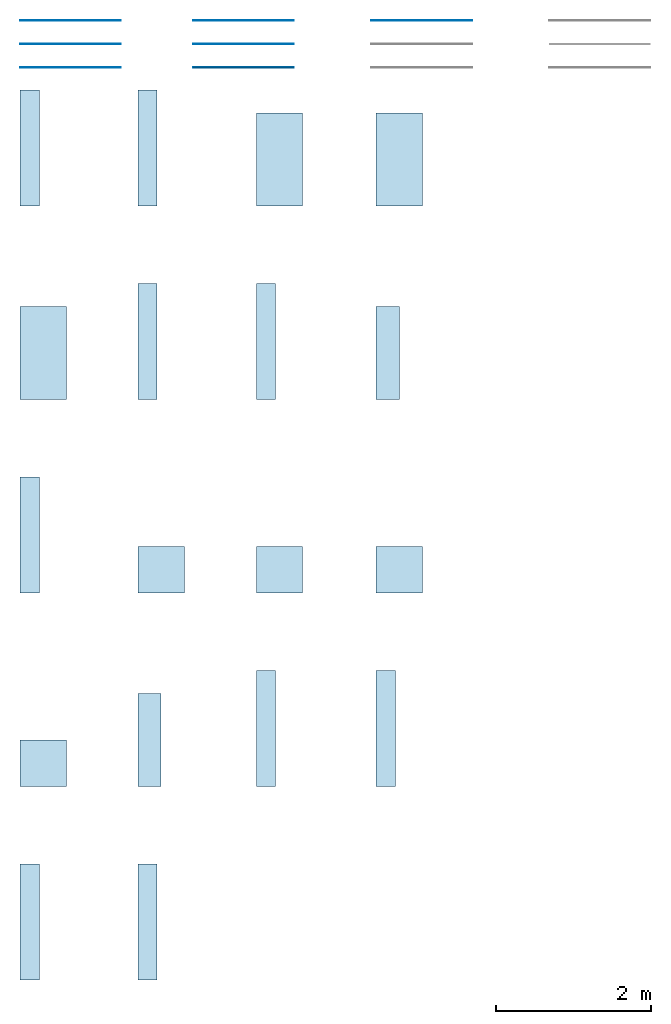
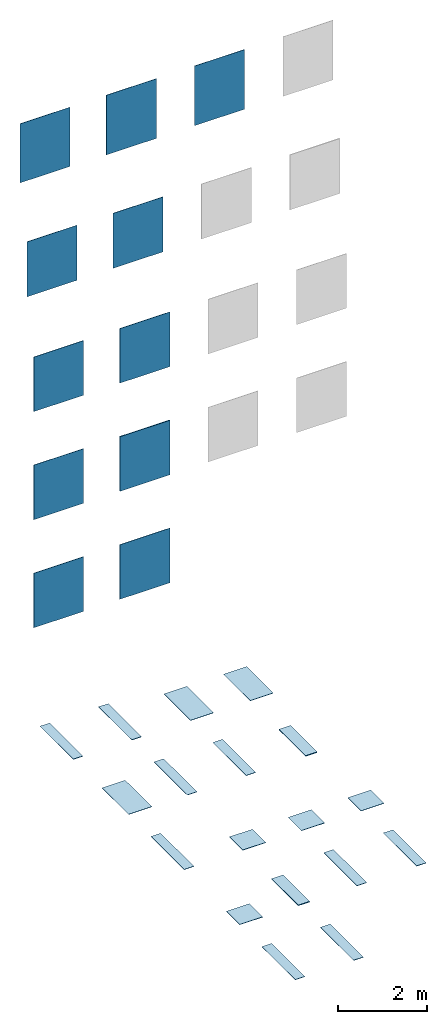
# One storey, part 1 of 2: 18 slabs, 11 walls.
"""IFC2X3 building model written with IfcOpenShell, lengths in millimetres."""

from ifc_helpers import new_model, entity, si_unit, converted_unit, derived_unit, direction, frame, frame_2d, origin, origin_2d_with_axis, place, context, subcontext, project, spatial, rectangle, extrude, material, layer, layer_set, layer_usage, type_object, element, save


model = new_model("IFC2X3")

# Units and contexts
model_context = context("Model", 3, precision=0.01, world=origin(), true_north=direction((6.123031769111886e-17, 1.0)))
body_context = subcontext(model_context, "Body", "Model", "MODEL_VIEW")
ifc_project = project(units=[si_unit("LENGTHUNIT", "METRE", prefix="MILLI"), si_unit("AREAUNIT", "SQUARE_METRE"), si_unit("VOLUMEUNIT", "CUBIC_METRE"), converted_unit("PLANEANGLEUNIT", "DEGREE", entity("IfcPlaneAngleMeasure", 0.017453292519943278), si_unit("PLANEANGLEUNIT", "RADIAN"), dimensions=[0, 0, 0, 0, 0, 0, 0]), si_unit("MASSUNIT", "GRAM", prefix="KILO"), derived_unit("MASSDENSITYUNIT", [(si_unit("MASSUNIT", "GRAM", prefix="KILO"), 1), (si_unit("LENGTHUNIT", "METRE"), -3)]), derived_unit("IONCONCENTRATIONUNIT", [(si_unit("MASSUNIT", "GRAM", prefix="KILO"), 1), (si_unit("LENGTHUNIT", "METRE"), -3)]), derived_unit("MOMENTOFINERTIAUNIT", [(si_unit("LENGTHUNIT", "METRE"), 4)]), si_unit("TIMEUNIT", "SECOND"), si_unit("FREQUENCYUNIT", "HERTZ"), si_unit("THERMODYNAMICTEMPERATUREUNIT", "DEGREE_CELSIUS"), derived_unit("THERMALTRANSMITTANCEUNIT", [(si_unit("MASSUNIT", "GRAM", prefix="KILO"), 1), (si_unit("THERMODYNAMICTEMPERATUREUNIT", "KELVIN"), -1), (si_unit("TIMEUNIT", "SECOND"), -3)]), derived_unit("THERMALCONDUCTANCEUNIT", [(si_unit("MASSUNIT", "GRAM", prefix="KILO"), 1), (si_unit("THERMODYNAMICTEMPERATUREUNIT", "KELVIN"), -1), (si_unit("TIMEUNIT", "SECOND"), -3), (si_unit("LENGTHUNIT", "METRE"), 1)]), derived_unit("VOLUMETRICFLOWRATEUNIT", [(si_unit("LENGTHUNIT", "METRE", prefix="DECI"), 3), (si_unit("TIMEUNIT", "SECOND"), -1)]), derived_unit("MASSFLOWRATEUNIT", [(si_unit("MASSUNIT", "GRAM", prefix="KILO"), 1), (si_unit("TIMEUNIT", "SECOND"), -1)]), derived_unit("ROTATIONALFREQUENCYUNIT", [(si_unit("TIMEUNIT", "SECOND"), -1)]), si_unit("ELECTRICCURRENTUNIT", "AMPERE"), si_unit("ELECTRICVOLTAGEUNIT", "VOLT"), si_unit("POWERUNIT", "WATT"), si_unit("FORCEUNIT", "NEWTON", prefix="KILO"), si_unit("ILLUMINANCEUNIT", "LUX"), si_unit("LUMINOUSFLUXUNIT", "LUMEN"), si_unit("LUMINOUSINTENSITYUNIT", "CANDELA"), si_unit("ENERGYUNIT", "JOULE"), derived_unit("USERDEFINED", [(si_unit("MASSUNIT", "GRAM", prefix="KILO"), -1), (si_unit("LENGTHUNIT", "METRE"), -2), (si_unit("TIMEUNIT", "SECOND"), 3), (si_unit("LUMINOUSFLUXUNIT", "LUMEN"), 1)]), derived_unit("USERDEFINED", [(si_unit("MASSUNIT", "GRAM", prefix="KILO"), 1), (si_unit("TIMEUNIT", "SECOND"), -3), (si_unit("LENGTHUNIT", "METRE"), 3), (si_unit("ELECTRICCURRENTUNIT", "AMPERE"), -2)]), derived_unit("SOUNDPOWERUNIT", [(si_unit("MASSUNIT", "GRAM", prefix="KILO"), 1), (si_unit("TIMEUNIT", "SECOND"), -3), (si_unit("LENGTHUNIT", "METRE"), 2)]), derived_unit("SOUNDPRESSUREUNIT", [(si_unit("MASSUNIT", "GRAM", prefix="KILO"), 1), (si_unit("LENGTHUNIT", "METRE"), -1), (si_unit("TIMEUNIT", "SECOND"), -2)]), derived_unit("LINEARVELOCITYUNIT", [(si_unit("LENGTHUNIT", "METRE"), 1), (si_unit("TIMEUNIT", "SECOND"), -1)]), si_unit("PRESSUREUNIT", "PASCAL"), derived_unit("USERDEFINED", [(si_unit("MASSUNIT", "GRAM", prefix="KILO"), 1), (si_unit("LENGTHUNIT", "METRE"), -2), (si_unit("TIMEUNIT", "SECOND"), -2)]), derived_unit("LINEARFORCEUNIT", [(si_unit("MASSUNIT", "GRAM", prefix="KILO"), 1), (si_unit("TIMEUNIT", "SECOND"), -2)]), derived_unit("PLANARFORCEUNIT", [(si_unit("MASSUNIT", "GRAM", prefix="KILO"), 1), (si_unit("LENGTHUNIT", "METRE"), -1), (si_unit("TIMEUNIT", "SECOND"), -2)]), derived_unit("SPECIFICHEATCAPACITYUNIT", [(si_unit("THERMODYNAMICTEMPERATUREUNIT", "KELVIN"), -1), (si_unit("LENGTHUNIT", "METRE"), 2), (si_unit("TIMEUNIT", "SECOND"), -2)]), derived_unit("HEATFLUXDENSITYUNIT", [(si_unit("MASSUNIT", "GRAM", prefix="KILO"), 1), (si_unit("TIMEUNIT", "SECOND"), -3)]), derived_unit("HEATINGVALUEUNIT", [(si_unit("LENGTHUNIT", "METRE"), 2), (si_unit("TIMEUNIT", "SECOND"), -2)]), derived_unit("VAPORPERMEABILITYUNIT", [(si_unit("LENGTHUNIT", "METRE"), -1), (si_unit("TIMEUNIT", "SECOND"), 1)]), derived_unit("DYNAMICVISCOSITYUNIT", [(si_unit("MASSUNIT", "GRAM", prefix="KILO"), 1), (si_unit("TIMEUNIT", "SECOND"), -1), (si_unit("LENGTHUNIT", "METRE"), -1)]), derived_unit("THERMALEXPANSIONCOEFFICIENTUNIT", [(si_unit("THERMODYNAMICTEMPERATUREUNIT", "KELVIN"), -1)]), derived_unit("MODULUSOFELASTICITYUNIT", [(si_unit("MASSUNIT", "GRAM", prefix="KILO"), 1), (si_unit("LENGTHUNIT", "METRE"), -1), (si_unit("TIMEUNIT", "SECOND"), -2)]), derived_unit("ISOTHERMALMOISTURECAPACITYUNIT", [(si_unit("MASSUNIT", "GRAM", prefix="KILO"), -1), (si_unit("LENGTHUNIT", "METRE"), 3)]), derived_unit("MOISTUREDIFFUSIVITYUNIT", [(si_unit("TIMEUNIT", "SECOND"), -1), (si_unit("LENGTHUNIT", "METRE"), 2)]), derived_unit("MASSPERLENGTHUNIT", [(si_unit("MASSUNIT", "GRAM", prefix="KILO"), 1), (si_unit("LENGTHUNIT", "METRE"), -1)]), derived_unit("THERMALRESISTANCEUNIT", [(si_unit("MASSUNIT", "GRAM", prefix="KILO"), -1), (si_unit("TIMEUNIT", "SECOND"), 3), (si_unit("THERMODYNAMICTEMPERATUREUNIT", "KELVIN"), 1)]), derived_unit("ACCELERATIONUNIT", [(si_unit("LENGTHUNIT", "METRE"), 1), (si_unit("TIMEUNIT", "SECOND"), -2)]), derived_unit("ANGULARVELOCITYUNIT", [(si_unit("TIMEUNIT", "SECOND"), -1), (si_unit("PLANEANGLEUNIT", "RADIAN"), 1)]), derived_unit("LINEARSTIFFNESSUNIT", [(si_unit("MASSUNIT", "GRAM", prefix="KILO"), 1), (si_unit("TIMEUNIT", "SECOND"), -2)]), derived_unit("WARPINGCONSTANTUNIT", [(si_unit("LENGTHUNIT", "METRE"), 6)]), derived_unit("LINEARMOMENTUNIT", [(si_unit("MASSUNIT", "GRAM", prefix="KILO"), 1), (si_unit("LENGTHUNIT", "METRE"), 1), (si_unit("TIMEUNIT", "SECOND"), -2)]), derived_unit("TORQUEUNIT", [(si_unit("MASSUNIT", "GRAM", prefix="KILO"), 1), (si_unit("LENGTHUNIT", "METRE"), 2), (si_unit("TIMEUNIT", "SECOND"), -2)])], contexts=[model_context])

# Site, building, storey
site_placement = place(None, origin())
site = spatial("IfcSite", under=ifc_project, at=site_placement, Name="Default", CompositionType="ELEMENT")
building_placement = place(site_placement, origin())
building = spatial("IfcBuilding", under=site, at=building_placement, CompositionType="ELEMENT")
storey_placement = place(building_placement, origin())
storey = spatial("IfcBuildingStorey", under=building, at=storey_placement, Name="Level 0", CompositionType="ELEMENT", Elevation=0.0)

# Slabs
ifc_material_1 = material(Name="Eik-Almond-25x150 RJ96")
ifc_layer_1 = layer(ifc_material_1, 9.0)
ifc_material_2 = material(Name="<Unnamed>")
ifc_layer_2 = layer(ifc_material_2, 1.0)
ifc_layer_set_1 = layer_set([ifc_layer_1, ifc_layer_2], Name="Floor:Floor_Tiles_Refin-Eik-Almond-25x150 RJ96")
ifc_layer_usage_1 = layer_usage(ifc_layer_set_1, "AXIS3", "POSITIVE", 0.0)
slab_type_1 = type_object("IfcSlabType", Name="Floor:Floor_Tiles_Refin-Eik-Almond-25x150 RJ96", PredefinedType="FLOOR", material=ifc_layer_set_1)
slab_1_placement = place(storey_placement, origin())
element("IfcSlab", 1, at=slab_1_placement, inside=storey, type_object=slab_type_1, material=ifc_layer_usage_1, Name="Floor:Floor_Tiles_Refin-Eik-Almond-25x150 RJ96", ObjectType="Floor:Floor_Tiles_Refin-Eik-Almond-25x150 RJ96", PredefinedType="FLOOR", context=body_context, shape_type="SweptSolid", body=[
    extrude(rectangle(XDim=1500.0, YDim=249.9999999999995, at=frame_2d((-5.115907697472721e-13, 0.0), x_axis=(1.0, 0.0))), frame((6499.375206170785, 6489.462374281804, 0.0), z_axis=(0.0, 0.0, -1.0), x_axis=(0.0, 1.0, 0.0)), (0.0, 0.0, 1.0), 10.0),
])
ifc_material_3 = material(Name="Eik-Ash-25x150 RJ97")
ifc_layer_3 = layer(ifc_material_3, 9.0)
ifc_layer_4 = layer(ifc_material_2, 1.0)
ifc_layer_set_2 = layer_set([ifc_layer_3, ifc_layer_4], Name="Floor:Floor_Tiles_Refin-Eik-Ash-25x150 RJ97")
ifc_layer_usage_2 = layer_usage(ifc_layer_set_2, "AXIS3", "POSITIVE", 0.0)
slab_type_2 = type_object("IfcSlabType", Name="Floor:Floor_Tiles_Refin-Eik-Ash-25x150 RJ97", PredefinedType="FLOOR", material=ifc_layer_set_2)
slab_2_placement = place(storey_placement, origin())
element("IfcSlab", 2, at=slab_2_placement, inside=storey, type_object=slab_type_2, material=ifc_layer_usage_2, Name="Floor:Floor_Tiles_Refin-Eik-Ash-25x150 RJ97", ObjectType="Floor:Floor_Tiles_Refin-Eik-Ash-25x150 RJ97", PredefinedType="FLOOR", context=body_context, shape_type="SweptSolid", body=[
    extrude(rectangle(XDim=1500.0, YDim=249.9999999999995, at=frame_2d((5.115907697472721e-13, 0.0), x_axis=(1.0, 0.0))), frame((8022.392405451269, 6488.4192063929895, 0.0), z_axis=(0.0, 0.0, -1.0), x_axis=(0.0, 1.0, 0.0)), (0.0, 0.0, 1.0), 10.0),
])
ifc_material_4 = material(Name="Eik-Canné-Almond-60x120 RK81")
ifc_layer_5 = layer(ifc_material_4, 9.0)
ifc_layer_6 = layer(ifc_material_2, 1.0)
ifc_layer_set_3 = layer_set([ifc_layer_5, ifc_layer_6], Name="Floor:Floor_Tiles_Refin-Eik-Cannè-Almond-60x120 RK81")
ifc_layer_usage_3 = layer_usage(ifc_layer_set_3, "AXIS3", "POSITIVE", 0.0)
slab_type_3 = type_object("IfcSlabType", Name="Floor:Floor_Tiles_Refin-Eik-Cannè-Almond-60x120 RK81", PredefinedType="FLOOR", material=ifc_layer_set_3)
slab_3_placement = place(storey_placement, origin())
element("IfcSlab", 3, at=slab_3_placement, inside=storey, type_object=slab_type_3, material=ifc_layer_usage_3, Name="Floor:Floor_Tiles_Refin-Eik-Cannè-Almond-60x120 RK81", ObjectType="Floor:Floor_Tiles_Refin-Eik-Cannè-Almond-60x120 RK81", PredefinedType="FLOOR", context=body_context, shape_type="SweptSolid", body=[
    extrude(rectangle(XDim=1200.0, YDim=600.0, at=frame_2d((0.0, -1.0800249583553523e-12), x_axis=(1.0, 0.0))), frame((9727.186141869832, 6339.462374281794, 0.0), z_axis=(0.0, 0.0, -1.0), x_axis=(0.0, 1.0, 0.0)), (0.0, 0.0, 1.0), 10.0),
])
ifc_material_5 = material(Name="Eik-Canné-Honey-60x120 RK82")
ifc_layer_7 = layer(ifc_material_5, 9.0)
ifc_layer_8 = layer(ifc_material_2, 1.0)
ifc_layer_set_4 = layer_set([ifc_layer_7, ifc_layer_8], Name="Floor:Floor_Tiles_Refin-Eik-Cannè-Honey-60x120 RK82")
ifc_layer_usage_4 = layer_usage(ifc_layer_set_4, "AXIS3", "POSITIVE", 0.0)
slab_type_4 = type_object("IfcSlabType", Name="Floor:Floor_Tiles_Refin-Eik-Cannè-Honey-60x120 RK82", PredefinedType="FLOOR", material=ifc_layer_set_4)
slab_4_placement = place(storey_placement, origin())
element("IfcSlab", 4, at=slab_4_placement, inside=storey, type_object=slab_type_4, material=ifc_layer_usage_4, Name="Floor:Floor_Tiles_Refin-Eik-Cannè-Honey-60x120 RK82", ObjectType="Floor:Floor_Tiles_Refin-Eik-Cannè-Honey-60x120 RK82", PredefinedType="FLOOR", context=body_context, shape_type="SweptSolid", body=[
    extrude(rectangle(XDim=1200.0, YDim=600.0, at=frame_2d((0.0, -1.0800249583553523e-12), x_axis=(1.0, 0.0))), frame((11276.979878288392, 6339.4623742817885, 0.0), z_axis=(0.0, 0.0, -1.0), x_axis=(0.0, 1.0, 0.0)), (0.0, 0.0, 1.0), 10.0),
])
ifc_material_6 = material(Name="Eik-Canné-Natural-60x120 RK83")
ifc_layer_9 = layer(ifc_material_6, 9.0)
ifc_layer_10 = layer(ifc_material_2, 1.0)
ifc_layer_set_5 = layer_set([ifc_layer_9, ifc_layer_10], Name="Floor:Floor_Tiles_Refin-Eik-Cannè-Natural-60x120 RK83")
ifc_layer_usage_5 = layer_usage(ifc_layer_set_5, "AXIS3", "POSITIVE", 0.0)
slab_type_5 = type_object("IfcSlabType", Name="Floor:Floor_Tiles_Refin-Eik-Cannè-Natural-60x120 RK83", PredefinedType="FLOOR", material=ifc_layer_set_5)
slab_5_placement = place(storey_placement, origin())
element("IfcSlab", 5, at=slab_5_placement, inside=storey, type_object=slab_type_5, material=ifc_layer_usage_5, Name="Floor:Floor_Tiles_Refin-Eik-Cannè-Natural-60x120 RK83", ObjectType="Floor:Floor_Tiles_Refin-Eik-Cannè-Natural-60x120 RK83", PredefinedType="FLOOR", context=body_context, shape_type="SweptSolid", body=[
    extrude(rectangle(XDim=1199.9999999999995, YDim=600.0, at=frame_2d((-2.2737367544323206e-13, 1.0800249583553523e-12), x_axis=(1.0, 0.0))), frame((6674.375206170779, 3839.4623742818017, 0.0), z_axis=(0.0, 0.0, -1.0), x_axis=(0.0, 1.0, 0.0)), (0.0, 0.0, 1.0), 10.0),
])
ifc_material_7 = material(Name="Eik-Choco-25x150 RJ98")
ifc_layer_11 = layer(ifc_material_7, 9.0)
ifc_layer_12 = layer(ifc_material_2, 1.0)
ifc_layer_set_6 = layer_set([ifc_layer_11, ifc_layer_12], Name="Floor:Floor_Tiles_Refin-Eik-Choco-25x150 RJ98")
ifc_layer_usage_6 = layer_usage(ifc_layer_set_6, "AXIS3", "POSITIVE", 0.0)
slab_type_6 = type_object("IfcSlabType", Name="Floor:Floor_Tiles_Refin-Eik-Choco-25x150 RJ98", PredefinedType="FLOOR", material=ifc_layer_set_6)
slab_6_placement = place(storey_placement, origin())
element("IfcSlab", 6, at=slab_6_placement, inside=storey, type_object=slab_type_6, material=ifc_layer_usage_6, Name="Floor:Floor_Tiles_Refin-Eik-Choco-25x150 RJ98", ObjectType="Floor:Floor_Tiles_Refin-Eik-Choco-25x150 RJ98", PredefinedType="FLOOR", context=body_context, shape_type="SweptSolid", body=[
    extrude(rectangle(XDim=1500.0, YDim=249.9999999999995, at=origin_2d_with_axis()), frame((8022.392405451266, 3989.4623742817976, 0.0), z_axis=(0.0, 0.0, -1.0), x_axis=(0.0, 1.0, 0.0)), (0.0, 0.0, 1.0), 10.0),
])
ifc_material_8 = material(Name="Eik-Coffee-25x150 RJ99")
ifc_layer_13 = layer(ifc_material_8, 9.0)
ifc_layer_14 = layer(ifc_material_2, 1.0)
ifc_layer_set_7 = layer_set([ifc_layer_13, ifc_layer_14], Name="Floor:Floor_Tiles_Refin-Eik-Coffee-25x150 RJ99")
ifc_layer_usage_7 = layer_usage(ifc_layer_set_7, "AXIS3", "POSITIVE", 0.0)
slab_type_7 = type_object("IfcSlabType", Name="Floor:Floor_Tiles_Refin-Eik-Coffee-25x150 RJ99", PredefinedType="FLOOR", material=ifc_layer_set_7)
slab_7_placement = place(storey_placement, origin())
element("IfcSlab", 7, at=slab_7_placement, inside=storey, type_object=slab_type_7, material=ifc_layer_usage_7, Name="Floor:Floor_Tiles_Refin-Eik-Coffee-25x150 RJ99", ObjectType="Floor:Floor_Tiles_Refin-Eik-Coffee-25x150 RJ99", PredefinedType="FLOOR", context=body_context, shape_type="SweptSolid", body=[
    extrude(rectangle(XDim=1500.0000000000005, YDim=249.9999999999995, at=frame_2d((-2.8421709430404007e-13, 0.0), x_axis=(1.0, 0.0))), frame((9552.186141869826, 3989.4623742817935, 0.0), z_axis=(0.0, 0.0, -1.0), x_axis=(0.0, 1.0, 0.0)), (0.0, 0.0, 1.0), 10.0),
])
ifc_material_9 = material(Name="Eik-Honey-OUT2.0-30x120 RN20")
ifc_layer_15 = layer(ifc_material_9, 20.0)
ifc_layer_16 = layer(ifc_material_2, 1.0)
ifc_layer_set_8 = layer_set([ifc_layer_15, ifc_layer_16], Name="Floor:Floor_Tiles_Refin-Eik-Honey-OUT2.0-30x120 RN20")
ifc_layer_usage_8 = layer_usage(ifc_layer_set_8, "AXIS3", "POSITIVE", 0.0)
slab_type_8 = type_object("IfcSlabType", Name="Floor:Floor_Tiles_Refin-Eik-Honey-OUT2.0-30x120 RN20", PredefinedType="FLOOR", material=ifc_layer_set_8)
slab_8_placement = place(storey_placement, origin())
element("IfcSlab", 8, at=slab_8_placement, inside=storey, type_object=slab_type_8, material=ifc_layer_usage_8, Name="Floor:Floor_Tiles_Refin-Eik-Honey-OUT2.0-30x120 RN20", ObjectType="Floor:Floor_Tiles_Refin-Eik-Honey-OUT2.0-30x120 RN20", PredefinedType="FLOOR", context=body_context, shape_type="SweptSolid", body=[
    extrude(rectangle(XDim=1200.0, YDim=300.0000000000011, at=origin_2d_with_axis()), frame((11126.97987828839, 3839.462374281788, 0.0), z_axis=(0.0, 0.0, -1.0), x_axis=(0.0, 1.0, 0.0)), (0.0, 0.0, 1.0), 21.0),
])
ifc_material_10 = material(Name="Eik-Honey-25x150 RK00")
ifc_layer_17 = layer(ifc_material_10, 9.0)
ifc_layer_18 = layer(ifc_material_2, 1.0)
ifc_layer_set_9 = layer_set([ifc_layer_17, ifc_layer_18], Name="Floor:Floor_Tiles_Refin-Eik-Honey-25x150 RK00")
ifc_layer_usage_9 = layer_usage(ifc_layer_set_9, "AXIS3", "POSITIVE", 0.0)
slab_type_9 = type_object("IfcSlabType", Name="Floor:Floor_Tiles_Refin-Eik-Honey-25x150 RK00", PredefinedType="FLOOR", material=ifc_layer_set_9)
slab_9_placement = place(storey_placement, origin())
element("IfcSlab", 9, at=slab_9_placement, inside=storey, type_object=slab_type_9, material=ifc_layer_usage_9, Name="Floor:Floor_Tiles_Refin-Eik-Honey-25x150 RK00", ObjectType="Floor:Floor_Tiles_Refin-Eik-Honey-25x150 RK00", PredefinedType="FLOOR", context=body_context, shape_type="SweptSolid", body=[
    extrude(rectangle(XDim=1500.0, YDim=249.9999999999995, at=origin_2d_with_axis()), frame((6499.375206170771, 1489.4623742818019, 0.0), z_axis=(0.0, 0.0, -1.0), x_axis=(0.0, 1.0, 0.0)), (0.0, 0.0, 1.0), 10.0),
])
ifc_material_11 = material(Name="Eik-Leaf-Almond-60x60 RL61")
ifc_layer_19 = layer(ifc_material_11, 9.0)
ifc_layer_20 = layer(ifc_material_2, 1.0)
ifc_layer_set_10 = layer_set([ifc_layer_19, ifc_layer_20], Name="Floor:Floor_Tiles_Refin-Eik-Leaf-Almond-60x60 RL61")
ifc_layer_usage_10 = layer_usage(ifc_layer_set_10, "AXIS3", "POSITIVE", 0.0)
slab_type_10 = type_object("IfcSlabType", Name="Floor:Floor_Tiles_Refin-Eik-Leaf-Almond-60x60 RL61", PredefinedType="FLOOR", material=ifc_layer_set_10)
slab_10_placement = place(storey_placement, origin())
element("IfcSlab", 10, at=slab_10_placement, inside=storey, type_object=slab_type_10, material=ifc_layer_usage_10, Name="Floor:Floor_Tiles_Refin-Eik-Leaf-Almond-60x60 RL61", ObjectType="Floor:Floor_Tiles_Refin-Eik-Leaf-Almond-60x60 RL61", PredefinedType="FLOOR", context=body_context, shape_type="SweptSolid", body=[
    extrude(rectangle(XDim=600.0, YDim=600.0, at=frame_2d((0.0, 1.0800249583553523e-12), x_axis=(1.0, 0.0))), frame((8197.39240545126, 1039.4623742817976, 0.0), z_axis=(0.0, 0.0, -1.0), x_axis=(0.0, 1.0, 0.0)), (0.0, 0.0, 1.0), 10.0),
])
ifc_material_12 = material(Name="Eik-Leaf-Honey-60x60 RL62")
ifc_layer_21 = layer(ifc_material_12, 9.0)
ifc_layer_22 = layer(ifc_material_2, 1.0)
ifc_layer_set_11 = layer_set([ifc_layer_21, ifc_layer_22], Name="Floor:Floor_Tiles_Refin-Eik-Leaf-Honey-60x60 RL62")
ifc_layer_usage_11 = layer_usage(ifc_layer_set_11, "AXIS3", "POSITIVE", 0.0)
slab_type_11 = type_object("IfcSlabType", Name="Floor:Floor_Tiles_Refin-Eik-Leaf-Honey-60x60 RL62", PredefinedType="FLOOR", material=ifc_layer_set_11)
slab_11_placement = place(storey_placement, origin())
element("IfcSlab", 11, at=slab_11_placement, inside=storey, type_object=slab_type_11, material=ifc_layer_usage_11, Name="Floor:Floor_Tiles_Refin-Eik-Leaf-Honey-60x60 RL62", ObjectType="Floor:Floor_Tiles_Refin-Eik-Leaf-Honey-60x60 RL62", PredefinedType="FLOOR", context=body_context, shape_type="SweptSolid", body=[
    extrude(rectangle(XDim=600.0, YDim=600.0, at=frame_2d((0.0, -1.0800249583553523e-12), x_axis=(1.0, 0.0))), frame((9727.186141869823, 1039.4623742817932, 0.0), z_axis=(0.0, 0.0, -1.0), x_axis=(0.0, 1.0, 0.0)), (0.0, 0.0, 1.0), 10.0),
])
ifc_material_13 = material(Name="Eik-Leaf-Natural-60x60 RL63")
ifc_layer_23 = layer(ifc_material_13, 9.0)
ifc_layer_24 = layer(ifc_material_2, 1.0)
ifc_layer_set_12 = layer_set([ifc_layer_23, ifc_layer_24], Name="Floor:Floor_Tiles_Refin-Eik-Leaf-Natural-60x60 RL63")
ifc_layer_usage_12 = layer_usage(ifc_layer_set_12, "AXIS3", "POSITIVE", 0.0)
slab_type_12 = type_object("IfcSlabType", Name="Floor:Floor_Tiles_Refin-Eik-Leaf-Natural-60x60 RL63", PredefinedType="FLOOR", material=ifc_layer_set_12)
slab_12_placement = place(storey_placement, origin())
element("IfcSlab", 12, at=slab_12_placement, inside=storey, type_object=slab_type_12, material=ifc_layer_usage_12, Name="Floor:Floor_Tiles_Refin-Eik-Leaf-Natural-60x60 RL63", ObjectType="Floor:Floor_Tiles_Refin-Eik-Leaf-Natural-60x60 RL63", PredefinedType="FLOOR", context=body_context, shape_type="SweptSolid", body=[
    extrude(rectangle(XDim=600.0, YDim=600.0, at=frame_2d((0.0, 1.0800249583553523e-12), x_axis=(1.0, 0.0))), frame((11276.979878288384, 1039.462374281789, 0.0), z_axis=(0.0, 0.0, -1.0), x_axis=(0.0, 1.0, 0.0)), (0.0, 0.0, 1.0), 10.0),
])
ifc_material_14 = material(Name="Eik-Leaf-Nut-60x60 RL64")
ifc_layer_25 = layer(ifc_material_14, 9.0)
ifc_layer_26 = layer(ifc_material_2, 1.0)
ifc_layer_set_13 = layer_set([ifc_layer_25, ifc_layer_26], Name="Floor:Floor_Tiles_Refin-Eik-Leaf-Nut-60x60 RL64")
ifc_layer_usage_13 = layer_usage(ifc_layer_set_13, "AXIS3", "POSITIVE", 0.0)
slab_type_13 = type_object("IfcSlabType", Name="Floor:Floor_Tiles_Refin-Eik-Leaf-Nut-60x60 RL64", PredefinedType="FLOOR", material=ifc_layer_set_13)
slab_13_placement = place(storey_placement, origin())
element("IfcSlab", 13, at=slab_13_placement, inside=storey, type_object=slab_type_13, material=ifc_layer_usage_13, Name="Floor:Floor_Tiles_Refin-Eik-Leaf-Nut-60x60 RL64", ObjectType="Floor:Floor_Tiles_Refin-Eik-Leaf-Nut-60x60 RL64", PredefinedType="FLOOR", context=body_context, shape_type="SweptSolid", body=[
    extrude(rectangle(XDim=600.0, YDim=600.0, at=frame_2d((0.0, 1.0800249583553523e-12), x_axis=(1.0, 0.0))), frame((6674.375206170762, -1460.5376257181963, 0.0), z_axis=(0.0, 0.0, -1.0), x_axis=(0.0, 1.0, 0.0)), (0.0, 0.0, 1.0), 10.0),
])
ifc_material_15 = material(Name="Eik-Natural-OUT2.0-30x120 RN21")
ifc_layer_27 = layer(ifc_material_15, 20.0)
ifc_layer_28 = layer(ifc_material_2, 1.0)
ifc_layer_set_14 = layer_set([ifc_layer_27, ifc_layer_28], Name="Floor:Floor_Tiles_Refin-Eik-Natural-OUT2.0-30x120 RN21")
ifc_layer_usage_14 = layer_usage(ifc_layer_set_14, "AXIS3", "POSITIVE", 0.0)
slab_type_14 = type_object("IfcSlabType", Name="Floor:Floor_Tiles_Refin-Eik-Natural-OUT2.0-30x120 RN21", PredefinedType="FLOOR", material=ifc_layer_set_14)
slab_14_placement = place(storey_placement, origin())
element("IfcSlab", 14, at=slab_14_placement, inside=storey, type_object=slab_type_14, material=ifc_layer_usage_14, Name="Floor:Floor_Tiles_Refin-Eik-Natural-OUT2.0-30x120 RN21", ObjectType="Floor:Floor_Tiles_Refin-Eik-Natural-OUT2.0-30x120 RN21", PredefinedType="FLOOR", context=body_context, shape_type="SweptSolid", body=[
    extrude(rectangle(XDim=1200.0, YDim=300.0000000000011, at=origin_2d_with_axis()), frame((8047.392405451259, -1160.5376257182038, 0.0), z_axis=(0.0, 0.0, -1.0), x_axis=(0.0, 1.0, 0.0)), (0.0, 0.0, 1.0), 21.0),
])
ifc_material_16 = material(Name="Eik-Natural-25x150 RK01")
ifc_layer_29 = layer(ifc_material_16, 9.0)
ifc_layer_30 = layer(ifc_material_2, 1.0)
ifc_layer_set_15 = layer_set([ifc_layer_29, ifc_layer_30], Name="Floor:Floor_Tiles_Refin-Eik-Natural-25x150 RK01")
ifc_layer_usage_15 = layer_usage(ifc_layer_set_15, "AXIS3", "POSITIVE", 0.0)
slab_type_15 = type_object("IfcSlabType", Name="Floor:Floor_Tiles_Refin-Eik-Natural-25x150 RK01", PredefinedType="FLOOR", material=ifc_layer_set_15)
slab_15_placement = place(storey_placement, origin())
element("IfcSlab", 15, at=slab_15_placement, inside=storey, type_object=slab_type_15, material=ifc_layer_usage_15, Name="Floor:Floor_Tiles_Refin-Eik-Natural-25x150 RK01", ObjectType="Floor:Floor_Tiles_Refin-Eik-Natural-25x150 RK01", PredefinedType="FLOOR", context=body_context, shape_type="SweptSolid", body=[
    extrude(rectangle(XDim=1500.0, YDim=249.9999999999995, at=origin_2d_with_axis()), frame((9552.186141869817, -1010.5376257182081, 0.0), z_axis=(0.0, 0.0, -1.0), x_axis=(0.0, 1.0, 0.0)), (0.0, 0.0, 1.0), 10.0),
])
ifc_material_17 = material(Name="Eik-Nut-25x150 RK02")
ifc_layer_31 = layer(ifc_material_17, 9.0)
ifc_layer_32 = layer(ifc_material_2, 1.0)
ifc_layer_set_16 = layer_set([ifc_layer_31, ifc_layer_32], Name="Floor:Floor_Tiles_Refin-Eik-Nut-25x150 RK02")
ifc_layer_usage_16 = layer_usage(ifc_layer_set_16, "AXIS3", "POSITIVE", 0.0)
slab_type_16 = type_object("IfcSlabType", Name="Floor:Floor_Tiles_Refin-Eik-Nut-25x150 RK02", PredefinedType="FLOOR", material=ifc_layer_set_16)
slab_16_placement = place(storey_placement, origin())
element("IfcSlab", 16, at=slab_16_placement, inside=storey, type_object=slab_type_16, material=ifc_layer_usage_16, Name="Floor:Floor_Tiles_Refin-Eik-Nut-25x150 RK02", ObjectType="Floor:Floor_Tiles_Refin-Eik-Nut-25x150 RK02", PredefinedType="FLOOR", context=body_context, shape_type="SweptSolid", body=[
    extrude(rectangle(XDim=1500.0, YDim=249.9999999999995, at=origin_2d_with_axis()), frame((11101.97987828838, -1010.5376257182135, 0.0), z_axis=(0.0, 0.0, -1.0), x_axis=(0.0, 1.0, 0.0)), (0.0, 0.0, 1.0), 10.0),
])
ifc_material_18 = material(Name="Eik-Rice-25x150 RK03")
ifc_layer_33 = layer(ifc_material_18, 9.0)
ifc_layer_34 = layer(ifc_material_2, 1.0)
ifc_layer_set_17 = layer_set([ifc_layer_33, ifc_layer_34], Name="Floor:Floor_Tiles_Refin-Eik-Rice-25x150 RK03")
ifc_layer_usage_17 = layer_usage(ifc_layer_set_17, "AXIS3", "POSITIVE", 0.0)
slab_type_17 = type_object("IfcSlabType", Name="Floor:Floor_Tiles_Refin-Eik-Rice-25x150 RK03", PredefinedType="FLOOR", material=ifc_layer_set_17)
slab_17_placement = place(storey_placement, origin())
element("IfcSlab", 17, at=slab_17_placement, inside=storey, type_object=slab_type_17, material=ifc_layer_usage_17, Name="Floor:Floor_Tiles_Refin-Eik-Rice-25x150 RK03", ObjectType="Floor:Floor_Tiles_Refin-Eik-Rice-25x150 RK03", PredefinedType="FLOOR", context=body_context, shape_type="SweptSolid", body=[
    extrude(rectangle(XDim=1500.0, YDim=249.9999999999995, at=origin_2d_with_axis()), frame((6499.375206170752, -3510.537625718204, 0.0), z_axis=(0.0, 0.0, -1.0), x_axis=(0.0, 1.0, 0.0)), (0.0, 0.0, 1.0), 10.0),
])
ifc_material_19 = material(Name="Eik-Sand-25x150 RK04")
ifc_layer_35 = layer(ifc_material_19, 9.0)
ifc_layer_36 = layer(ifc_material_2, 1.0)
ifc_layer_set_18 = layer_set([ifc_layer_35, ifc_layer_36], Name="Floor:Floor_Tiles_Refin-Eik-Sand-25x150 RK04")
ifc_layer_usage_18 = layer_usage(ifc_layer_set_18, "AXIS3", "POSITIVE", 0.0)
slab_type_18 = type_object("IfcSlabType", Name="Floor:Floor_Tiles_Refin-Eik-Sand-25x150 RK04", PredefinedType="FLOOR", material=ifc_layer_set_18)
slab_18_placement = place(storey_placement, origin())
element("IfcSlab", 18, at=slab_18_placement, inside=storey, type_object=slab_type_18, material=ifc_layer_usage_18, Name="Floor:Floor_Tiles_Refin-Eik-Sand-25x150 RK04", ObjectType="Floor:Floor_Tiles_Refin-Eik-Sand-25x150 RK04", PredefinedType="FLOOR", context=body_context, shape_type="SweptSolid", body=[
    extrude(rectangle(XDim=1500.0, YDim=249.9999999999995, at=origin_2d_with_axis()), frame((8022.392405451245, -3510.5376257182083, 0.0), z_axis=(0.0, 0.0, -1.0), x_axis=(0.0, 1.0, 0.0)), (0.0, 0.0, 1.0), 10.0),
])

# Walls
ifc_layer_37 = layer(ifc_material_2, 1.0)
ifc_layer_38 = layer(ifc_material_1, 9.0)
ifc_layer_set_19 = layer_set([ifc_layer_37, ifc_layer_38], Name="Basic Wall:Wall_Tiles_Refin-Eik-Ash-25x150 RJ97")
ifc_layer_usage_19 = layer_usage(ifc_layer_set_19, "AXIS2", "NEGATIVE", 5.000000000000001)
wall_type_1 = type_object("IfcWallType", Name="Basic Wall:Wall_Tiles_Refin-Eik-Ash-25x150 RJ97", PredefinedType="STANDARD", material=ifc_layer_set_19)
wall_1_placement = place(storey_placement, frame((8614.375206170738, 8137.38386313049, 14387.677044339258)))
element("IfcWallStandardCase", 19, at=wall_1_placement, inside=storey, type_object=wall_type_1, material=ifc_layer_usage_19, Name="Basic Wall:Wall_Tiles_Refin-Eik-Ash-25x150 RJ97", ObjectType="Basic Wall:Wall_Tiles_Refin-Eik-Ash-25x150 RJ97", context=body_context, shape_type="SweptSolid", body=[
    extrude(rectangle(XDim=1300.0, YDim=9.999999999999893, at=frame_2d((650.0, 7.638334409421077e-14), x_axis=(-1.0, 0.0))), origin(), (0.0, 0.0, 1.0), 1641.7417352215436),
])
ifc_layer_39 = layer(ifc_material_2, 1.0)
ifc_layer_40 = layer(ifc_material_4, 9.0)
ifc_layer_set_20 = layer_set([ifc_layer_39, ifc_layer_40], Name="Basic Wall:Wall_Tiles_Refin-Eik-Canné-Almond-60x120 RK81")
ifc_layer_usage_20 = layer_usage(ifc_layer_set_20, "AXIS2", "NEGATIVE", 5.000000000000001)
wall_type_2 = type_object("IfcWallType", Name="Basic Wall:Wall_Tiles_Refin-Eik-Canné-Almond-60x120 RK81", PredefinedType="STANDARD", material=ifc_layer_set_20)
wall_2_placement = place(storey_placement, frame((10914.37520617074, 8137.383863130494, 14387.677044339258)))
element("IfcWallStandardCase", 20, at=wall_2_placement, inside=storey, type_object=wall_type_2, material=ifc_layer_usage_20, Name="Basic Wall:Wall_Tiles_Refin-Eik-Canné-Almond-60x120 RK81", ObjectType="Basic Wall:Wall_Tiles_Refin-Eik-Canné-Almond-60x120 RK81", context=body_context, shape_type="SweptSolid", body=[
    extrude(rectangle(XDim=1299.999999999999, YDim=9.999999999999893, at=frame_2d((649.9999999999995, 7.638334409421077e-14), x_axis=(-1.0, 0.0))), origin(), (0.0, 0.0, 1.0), 1641.7417352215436),
])
ifc_layer_41 = layer(ifc_material_2, 1.0)
ifc_layer_42 = layer(ifc_material_1, 9.0)
ifc_layer_set_21 = layer_set([ifc_layer_41, ifc_layer_42], Name="Basic Wall:Wall_Tiles_Refin-Eik-Almond-25x150 RJ96")
ifc_layer_usage_21 = layer_usage(ifc_layer_set_21, "AXIS2", "NEGATIVE", 5.000000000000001)
wall_type_3 = type_object("IfcWallType", Name="Basic Wall:Wall_Tiles_Refin-Eik-Almond-25x150 RJ96", PredefinedType="STANDARD", material=ifc_layer_set_21)
wall_3_placement = place(storey_placement, frame((6374.375206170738, 8137.383863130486, 14403.726734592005)))
element("IfcWallStandardCase", 21, at=wall_3_placement, inside=storey, type_object=wall_type_3, material=ifc_layer_usage_21, Name="Basic Wall:Wall_Tiles_Refin-Eik-Almond-25x150 RJ96", ObjectType="Basic Wall:Wall_Tiles_Refin-Eik-Almond-25x150 RJ96", context=body_context, shape_type="SweptSolid", body=[
    extrude(rectangle(XDim=1300.0, YDim=9.999999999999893, at=frame_2d((650.0, 7.638334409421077e-14), x_axis=(-1.0, 0.0))), origin(), (0.0, 0.0, 1.0), 1625.692044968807),
])
ifc_layer_43 = layer(ifc_material_2, 1.0)
ifc_layer_44 = layer(ifc_material_6, 9.0)
ifc_layer_set_22 = layer_set([ifc_layer_43, ifc_layer_44], Name="Basic Wall:Wall_Tiles_Refin-Eik-Canné-Natural-60x120 RK83")
ifc_layer_usage_22 = layer_usage(ifc_layer_set_22, "AXIS2", "NEGATIVE", 5.000000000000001)
wall_type_4 = type_object("IfcWallType", Name="Basic Wall:Wall_Tiles_Refin-Eik-Canné-Natural-60x120 RK83", PredefinedType="STANDARD", material=ifc_layer_set_22)
wall_4_placement = place(storey_placement, frame((6374.375206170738, 7832.383863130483, 11452.543626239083)))
element("IfcWallStandardCase", 22, at=wall_4_placement, inside=storey, type_object=wall_type_4, material=ifc_layer_usage_22, Name="Basic Wall:Wall_Tiles_Refin-Eik-Canné-Natural-60x120 RK83", ObjectType="Basic Wall:Wall_Tiles_Refin-Eik-Canné-Natural-60x120 RK83", context=body_context, shape_type="SweptSolid", body=[
    extrude(rectangle(XDim=1300.0, YDim=9.999999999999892, at=frame_2d((650.0, 0.0), x_axis=(-1.0, 0.0))), origin(), (0.0, 0.0, 1.0), 1513.1985565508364),
])
ifc_layer_45 = layer(ifc_material_2, 1.0)
ifc_layer_46 = layer(ifc_material_7, 9.0)
ifc_layer_set_23 = layer_set([ifc_layer_45, ifc_layer_46], Name="Basic Wall:Wall_Tiles_Refin-Eik-Choco-25x150 RJ98")
ifc_layer_usage_23 = layer_usage(ifc_layer_set_23, "AXIS2", "NEGATIVE", 5.000000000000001)
wall_type_5 = type_object("IfcWallType", Name="Basic Wall:Wall_Tiles_Refin-Eik-Choco-25x150 RJ98", PredefinedType="STANDARD", material=ifc_layer_set_23)
wall_5_placement = place(storey_placement, frame((8614.375206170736, 7832.383863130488, 11452.543626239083)))
element("IfcWallStandardCase", 23, at=wall_5_placement, inside=storey, type_object=wall_type_5, material=ifc_layer_usage_23, Name="Basic Wall:Wall_Tiles_Refin-Eik-Choco-25x150 RJ98", ObjectType="Basic Wall:Wall_Tiles_Refin-Eik-Choco-25x150 RJ98", context=body_context, shape_type="SweptSolid", body=[
    extrude(rectangle(XDim=1300.0000000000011, YDim=9.999999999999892, at=frame_2d((650.0000000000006, 0.0), x_axis=(-1.0, 0.0))), origin(), (0.0, 0.0, 1.0), 1513.1985565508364),
])
ifc_layer_47 = layer(ifc_material_2, 1.0)
ifc_layer_48 = layer(ifc_material_10, 9.0)
ifc_layer_set_24 = layer_set([ifc_layer_47, ifc_layer_48], Name="Basic Wall:Wall_Tiles_Refin-Eik-Honey-25x150 RK00")
ifc_layer_usage_24 = layer_usage(ifc_layer_set_24, "AXIS2", "NEGATIVE", 5.000000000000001)
wall_type_6 = type_object("IfcWallType", Name="Basic Wall:Wall_Tiles_Refin-Eik-Honey-25x150 RK00", PredefinedType="STANDARD", material=ifc_layer_set_24)
wall_6_placement = place(storey_placement, frame((6374.375206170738, 7527.383863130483, 8479.102721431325)))
element("IfcWallStandardCase", 24, at=wall_6_placement, inside=storey, type_object=wall_type_6, material=ifc_layer_usage_24, Name="Basic Wall:Wall_Tiles_Refin-Eik-Honey-25x150 RK00", ObjectType="Basic Wall:Wall_Tiles_Refin-Eik-Honey-25x150 RK00", context=body_context, shape_type="SweptSolid", body=[
    extrude(rectangle(XDim=1300.0, YDim=9.999999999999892, at=frame_2d((650.0, 0.0), x_axis=(-1.0, 0.0))), origin(), (0.0, 0.0, 1.0), 1502.5740159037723),
])
ifc_layer_49 = layer(ifc_material_2, 1.0)
ifc_layer_50 = layer(ifc_material_11, 9.0)
ifc_layer_set_25 = layer_set([ifc_layer_49, ifc_layer_50], Name="Basic Wall:Wall_Tiles_Refin-Eik-Leaf-Almond-60x60 RL61")
ifc_layer_usage_25 = layer_usage(ifc_layer_set_25, "AXIS2", "NEGATIVE", 5.000000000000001)
wall_type_7 = type_object("IfcWallType", Name="Basic Wall:Wall_Tiles_Refin-Eik-Leaf-Almond-60x60 RL61", PredefinedType="STANDARD", material=ifc_layer_set_25)
wall_7_placement = place(storey_placement, frame((8614.375206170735, 7527.383863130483, 8479.102721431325)))
element("IfcWallStandardCase", 25, at=wall_7_placement, inside=storey, type_object=wall_type_7, material=ifc_layer_usage_25, Name="Basic Wall:Wall_Tiles_Refin-Eik-Leaf-Almond-60x60 RL61", ObjectType="Basic Wall:Wall_Tiles_Refin-Eik-Leaf-Almond-60x60 RL61", context=body_context, shape_type="SweptSolid", body=[
    extrude(rectangle(XDim=1300.0000000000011, YDim=9.999999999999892, at=frame_2d((650.0000000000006, 0.0), x_axis=(-1.0, 0.0))), origin(), (0.0, 0.0, 1.0), 1502.5740159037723),
])
ifc_layer_51 = layer(ifc_material_2, 1.0)
ifc_layer_52 = layer(ifc_material_14, 9.0)
ifc_layer_set_26 = layer_set([ifc_layer_51, ifc_layer_52], Name="Basic Wall:Wall_Tiles_Refin-Eik-Leaf-Nut-60x60 RL64")
ifc_layer_usage_26 = layer_usage(ifc_layer_set_26, "AXIS2", "NEGATIVE", 5.000000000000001)
wall_type_8 = type_object("IfcWallType", Name="Basic Wall:Wall_Tiles_Refin-Eik-Leaf-Nut-60x60 RL64", PredefinedType="STANDARD", material=ifc_layer_set_26)
wall_8_placement = place(storey_placement, frame((6374.375206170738, 7527.383863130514, 5505.661816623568)))
element("IfcWallStandardCase", 26, at=wall_8_placement, inside=storey, type_object=wall_type_8, material=ifc_layer_usage_26, Name="Basic Wall:Wall_Tiles_Refin-Eik-Leaf-Nut-60x60 RL64", ObjectType="Basic Wall:Wall_Tiles_Refin-Eik-Leaf-Nut-60x60 RL64", context=body_context, shape_type="SweptSolid", body=[
    extrude(rectangle(XDim=1300.0, YDim=9.999999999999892, at=frame_2d((650.0, 0.0), x_axis=(-1.0, 0.0))), origin(), (0.0, 0.0, 1.0), 1502.5740159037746),
])
ifc_layer_53 = layer(ifc_material_2, 1.0)
ifc_layer_54 = layer(ifc_material_15, 20.0)
ifc_layer_set_27 = layer_set([ifc_layer_53, ifc_layer_54], Name="Basic Wall:Wall_Tiles_Refin-Eik-Natural-OUT2.0-30x120 RN21")
ifc_layer_usage_27 = layer_usage(ifc_layer_set_27, "AXIS2", "NEGATIVE", 10.5)
wall_type_9 = type_object("IfcWallType", Name="Basic Wall:Wall_Tiles_Refin-Eik-Natural-OUT2.0-30x120 RN21", PredefinedType="STANDARD", material=ifc_layer_set_27)
wall_9_placement = place(storey_placement, frame((8614.375206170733, 7527.383863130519, 5505.661816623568)))
element("IfcWallStandardCase", 27, at=wall_9_placement, inside=storey, type_object=wall_type_9, material=ifc_layer_usage_27, Name="Basic Wall:Wall_Tiles_Refin-Eik-Natural-OUT2.0-30x120 RN21", ObjectType="Basic Wall:Wall_Tiles_Refin-Eik-Natural-OUT2.0-30x120 RN21", context=body_context, shape_type="SweptSolid", body=[
    extrude(rectangle(XDim=1300.0000000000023, YDim=20.999999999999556, at=frame_2d((650.0000000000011, 0.0), x_axis=(-1.0, 0.0))), origin(), (0.0, 0.0, 1.0), 1502.5740159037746),
])
ifc_layer_55 = layer(ifc_material_2, 1.0)
ifc_layer_56 = layer(ifc_material_18, 9.0)
ifc_layer_set_28 = layer_set([ifc_layer_55, ifc_layer_56], Name="Basic Wall:Wall_Tiles_Refin-Eik-Rice-25x150 RK03")
ifc_layer_usage_28 = layer_usage(ifc_layer_set_28, "AXIS2", "NEGATIVE", 5.000000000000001)
wall_type_10 = type_object("IfcWallType", Name="Basic Wall:Wall_Tiles_Refin-Eik-Rice-25x150 RK03", PredefinedType="STANDARD", material=ifc_layer_set_28)
wall_10_placement = place(storey_placement, frame((6374.375206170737, 7527.38386313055, 2532.2209118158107)))
element("IfcWallStandardCase", 28, at=wall_10_placement, inside=storey, type_object=wall_type_10, material=ifc_layer_usage_28, Name="Basic Wall:Wall_Tiles_Refin-Eik-Rice-25x150 RK03", ObjectType="Basic Wall:Wall_Tiles_Refin-Eik-Rice-25x150 RK03", context=body_context, shape_type="SweptSolid", body=[
    extrude(rectangle(XDim=1300.0000000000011, YDim=9.999999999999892, at=frame_2d((650.0000000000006, 0.0), x_axis=(-1.0, 0.0))), origin(), (0.0, 0.0, 1.0), 1502.5740159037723),
])
ifc_layer_57 = layer(ifc_material_2, 1.0)
ifc_layer_58 = layer(ifc_material_19, 9.0)
ifc_layer_set_29 = layer_set([ifc_layer_57, ifc_layer_58], Name="Basic Wall:Wall_Tiles_Refin-Eik-Sand-25x150 RK04")
ifc_layer_usage_29 = layer_usage(ifc_layer_set_29, "AXIS2", "NEGATIVE", 5.000000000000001)
wall_type_11 = type_object("IfcWallType", Name="Basic Wall:Wall_Tiles_Refin-Eik-Sand-25x150 RK04", PredefinedType="STANDARD", material=ifc_layer_set_29)
wall_11_placement = place(storey_placement, frame((8614.375206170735, 7527.383863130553, 2532.2209118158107)))
element("IfcWallStandardCase", 29, at=wall_11_placement, inside=storey, type_object=wall_type_11, material=ifc_layer_usage_29, Name="Basic Wall:Wall_Tiles_Refin-Eik-Sand-25x150 RK04", ObjectType="Basic Wall:Wall_Tiles_Refin-Eik-Sand-25x150 RK04", context=body_context, shape_type="SweptSolid", body=[
    extrude(rectangle(XDim=1300.0000000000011, YDim=9.999999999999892, at=frame_2d((650.0000000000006, 0.0), x_axis=(-1.0, 0.0))), origin(), (0.0, 0.0, 1.0), 1502.5740159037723),
])

save(model, "model.ifc")
